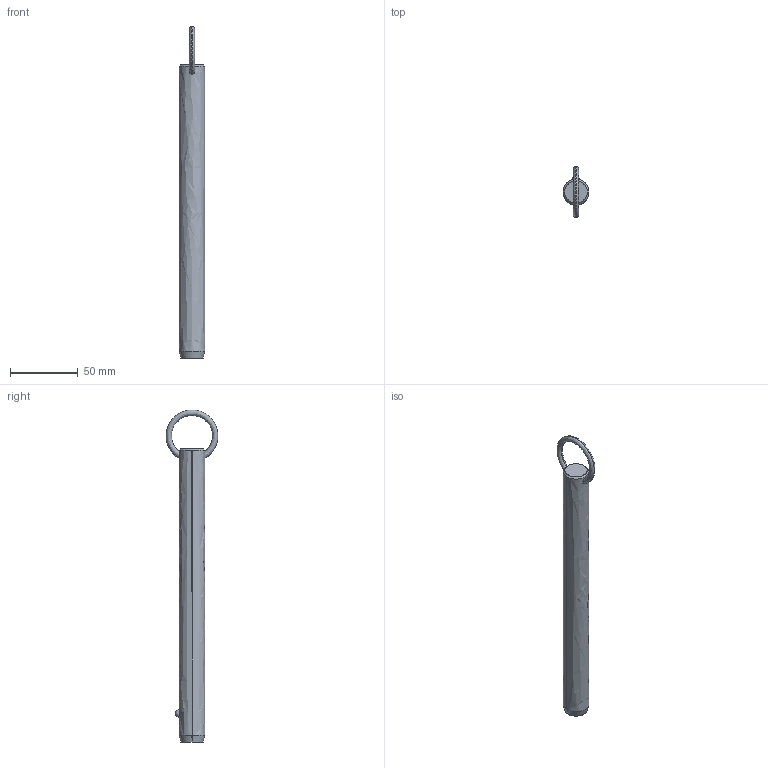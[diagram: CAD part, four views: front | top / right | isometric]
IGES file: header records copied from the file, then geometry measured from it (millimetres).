
Start section: SolidWorks IGES file using analytic representation for surfaces
Global section: file name: C:\Users\liam_\OneDrive\Documents\WORK\Work for WixRoyd\Job Files\J-00019 - Matt Davis CAD Checking\04. CAD Drawings\automotion20190605\P1250.2_v2\P1250.2_v2_20190729_IGES\P1250.075-720.igs; native system: SolidWorks 2017; preprocessor: SolidWorks 2017; author: liam_; date: 190730.000145; units: millimetre
Bounding box: 19 x 38.08 x 244.7 mm (x, y, z)
Surface area: 14431.9 mm2 (no closed solid volume)
Topology: 0 solids, 0 shells, 12 faces, 294 edges, 292 vertices
Faces by surface type: revolution 8, bspline 4
